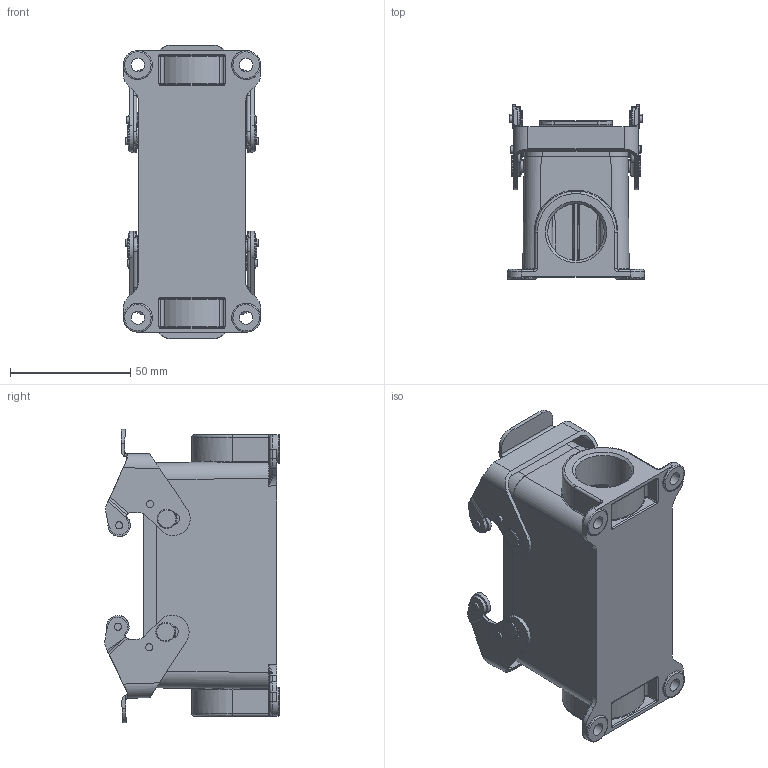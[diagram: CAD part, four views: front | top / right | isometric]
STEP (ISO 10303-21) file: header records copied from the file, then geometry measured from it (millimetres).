
FILE_DESCRIPTION (( 'STEP AP203' ), '1' );
FILE_NAME ('H16B-SGR-M25.STEP', '2023-06-09T02:58:44', ( '' ), ( '' ), 'SwSTEP 2.0', 'SolidWorks 2016', '' );
FILE_SCHEMA (( 'CONFIG_CONTROL_DESIGN' ));
Length unit declared in the file: millimetre
Products named in the file (1): H16B-SGR-M25
Bounding box: 57 x 72.64 x 121.89 mm (x, y, z)
Volume: 97765.8 mm3; surface area: 56493.4 mm2
Topology: 1 solids, 7 shells, 765 faces, 1985 edges, 1251 vertices
Faces by surface type: cylinder 282, plane 237, bspline 92, torus 85, cone 54, sphere 15
Full cylindrical faces by diameter (mm): 1.8 x4, 2.95 x12, 3 x8, 4.8 x12, 4.9 x4, 5.5 x4, 6.3 x8, 8 x4, 9.4 x4, 12 x4, 23.5 x1, 24 x1
Entity records: 27369 total; most frequent: CARTESIAN_POINT 10598, ORIENTED_EDGE 3490, DIRECTION 3271, EDGE_CURVE 1745, AXIS2_PLACEMENT_3D 1292, VERTEX_POINT 1151, EDGE_LOOP 964, FACE_OUTER_BOUND 867
